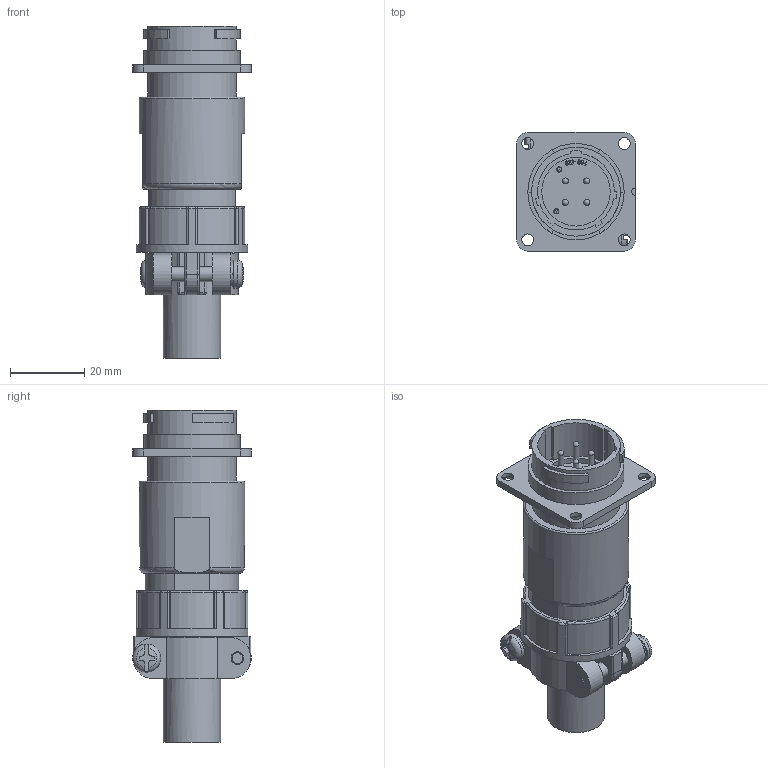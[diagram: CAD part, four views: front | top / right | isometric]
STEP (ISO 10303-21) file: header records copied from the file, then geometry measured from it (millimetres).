
FILE_DESCRIPTION (( 'STEP AP203' ), '1' );
FILE_NAME ('WEBWR2104M-1-D(R1).STEP', '2021-08-03T00:22:11', ( '' ), ( '' ), 'SwSTEP 2.0', 'SolidWorks 2018', '' );
FILE_SCHEMA (( 'CONFIG_CONTROL_DESIGN' ));
Length unit declared in the file: millimetre
Products named in the file (1): WEBWR2104M-1-D(R1)
Bounding box: 32 x 32.1 x 89.58 mm (x, y, z)
Volume: 25440.4 mm3; surface area: 19362.1 mm2
Topology: 1 solids, 1 shells, 630 faces, 1665 edges, 1069 vertices
Faces by surface type: plane 309, cylinder 150, bspline 106, sphere 24, torus 23, cone 18
Full cylindrical faces by diameter (mm): 1.2 x3, 1.4 x3, 1.6 x4, 1.7 x4, 2.4 x4, 2.8 x2, 3.2 x4, 3.4 x2, 4.1 x2, 4.3 x4, 7.6 x2, 14.1 x2, 15.46 x1, 15.8 x1, 16.22 x1, 17 x1, 18.5 x1, 20.1 x1, 20.45 x1, 23.96 x1, 24 x1, 26 x2, 28.4 x1, 30.2 x1
Entity records: 22490 total; most frequent: CARTESIAN_POINT 7980, ORIENTED_EDGE 3046, DIRECTION 2697, EDGE_CURVE 1523, VERTEX_POINT 1024, AXIS2_PLACEMENT_3D 907, LINE 883, VECTOR 883
